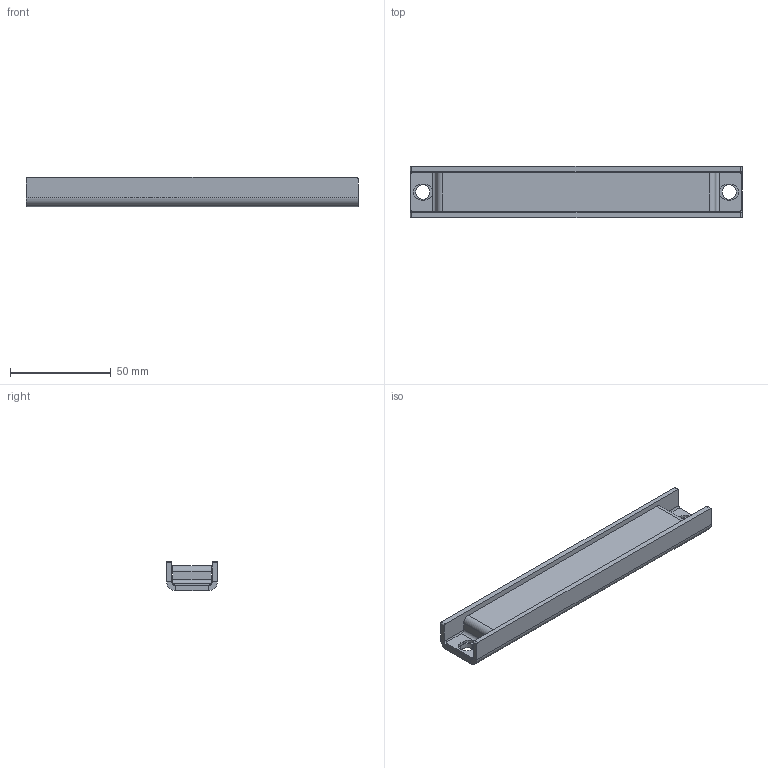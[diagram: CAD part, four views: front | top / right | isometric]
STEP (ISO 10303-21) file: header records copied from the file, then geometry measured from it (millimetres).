
FILE_DESCRIPTION (( 'STEP AP203' ), '1' );
FILE_NAME ('LC2362.STEP', '2018-07-27T15:13:28', ( '' ), ( '' ), 'SwSTEP 2.0', 'SolidWorks 2015', '' );
FILE_SCHEMA (( 'CONFIG_CONTROL_DESIGN' ));
Length unit declared in the file: inch
Products named in the file (1): LC2362
Bounding box: 165.1 x 25.4 x 14.68 mm (x, y, z)
Volume: 23580.7 mm3; surface area: 23583.7 mm2
Topology: 2 solids, 2 shells, 82 faces, 186 edges, 108 vertices
Faces by surface type: plane 52, cylinder 30
Entity records: 2339 total; most frequent: DIRECTION 412, CARTESIAN_POINT 377, ORIENTED_EDGE 372, EDGE_CURVE 186, AXIS2_PLACEMENT_3D 143, VECTOR 126, LINE 126, VERTEX_POINT 108
